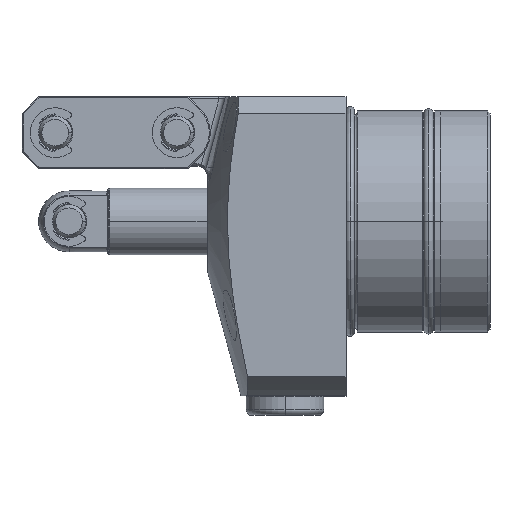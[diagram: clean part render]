
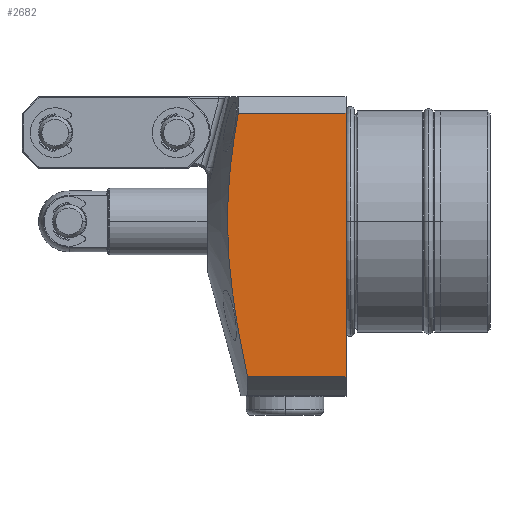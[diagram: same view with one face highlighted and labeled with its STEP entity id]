
A CAD part, top view. The second image highlights one B-rep face of the part: STEP entity #2682.
In plain terms, the highlighted planar face has unit normal (0, 0, 1).
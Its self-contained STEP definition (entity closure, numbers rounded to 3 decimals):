
#1388=B_SPLINE_CURVE_WITH_KNOTS('',3,(#11056,#11057,#11058,#11059,#11060,
#11061,#11062,#11063),.UNSPECIFIED.,.F.,.F.,(4,2,2,4),(0.,0.5,0.75,1.),
 .UNSPECIFIED.);
#1651=PLANE('',#7321);
#2086=LINE('',#11084,#2383);
#2087=LINE('',#11086,#2384);
#2088=LINE('',#11088,#2385);
#2383=VECTOR('',#8840,1.);
#2384=VECTOR('',#8843,1.);
#2385=VECTOR('',#8844,1.);
#2682=ADVANCED_FACE('',(#3086),#1651,.F.);
#3086=FACE_OUTER_BOUND('',#3447,.T.);
#3447=EDGE_LOOP('',(#4583,#4584,#4585,#4586));
#4583=ORIENTED_EDGE('',*,*,#6176,.F.);
#4584=ORIENTED_EDGE('',*,*,#6177,.T.);
#4585=ORIENTED_EDGE('',*,*,#6165,.F.);
#4586=ORIENTED_EDGE('',*,*,#6175,.F.);
#5515=VERTEX_POINT('',#11055);
#5516=VERTEX_POINT('',#11064);
#5520=VERTEX_POINT('',#11083);
#5521=VERTEX_POINT('',#11087);
#6165=EDGE_CURVE('',#5515,#5516,#1388,.T.);
#6175=EDGE_CURVE('',#5520,#5515,#2086,.T.);
#6176=EDGE_CURVE('',#5521,#5520,#2087,.T.);
#6177=EDGE_CURVE('',#5521,#5516,#2088,.T.);
#7321=AXIS2_PLACEMENT_3D('',#11089,#8845,#8846);
#8840=DIRECTION('',(-1.,0.,0.));
#8843=DIRECTION('',(0.,-1.,0.));
#8844=DIRECTION('',(-1.,0.,0.));
#8845=DIRECTION('',(0.,0.,-1.));
#8846=DIRECTION('',(0.,-1.,0.));
#11055=CARTESIAN_POINT('',(-17.792,-28.102,22.5));
#11056=CARTESIAN_POINT('',(-17.792,-28.102,22.5));
#11057=CARTESIAN_POINT('',(-19.43,-20.269,22.5));
#11058=CARTESIAN_POINT('',(-20.875,-12.419,22.5));
#11059=CARTESIAN_POINT('',(-21.498,-0.509,22.5));
#11060=CARTESIAN_POINT('',(-21.423,3.485,22.5));
#11061=CARTESIAN_POINT('',(-20.742,11.52,22.5));
#11062=CARTESIAN_POINT('',(-20.158,15.522,22.5));
#11063=CARTESIAN_POINT('',(-19.46,19.5,22.5));
#11064=CARTESIAN_POINT('',(-19.46,19.5,22.5));
#11083=CARTESIAN_POINT('',(0.,-28.102,22.5));
#11084=CARTESIAN_POINT('',(23.001,-28.102,22.5));
#11086=CARTESIAN_POINT('',(0.,0.,22.5));
#11087=CARTESIAN_POINT('',(0.,19.5,22.5));
#11088=CARTESIAN_POINT('',(23.001,19.5,22.5));
#11089=CARTESIAN_POINT('',(23.001,0.,22.5));
